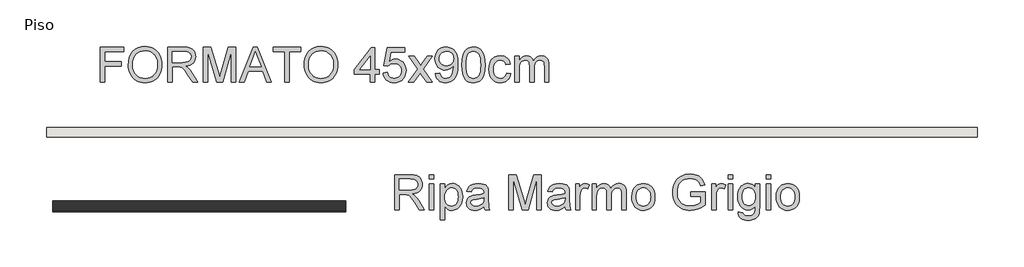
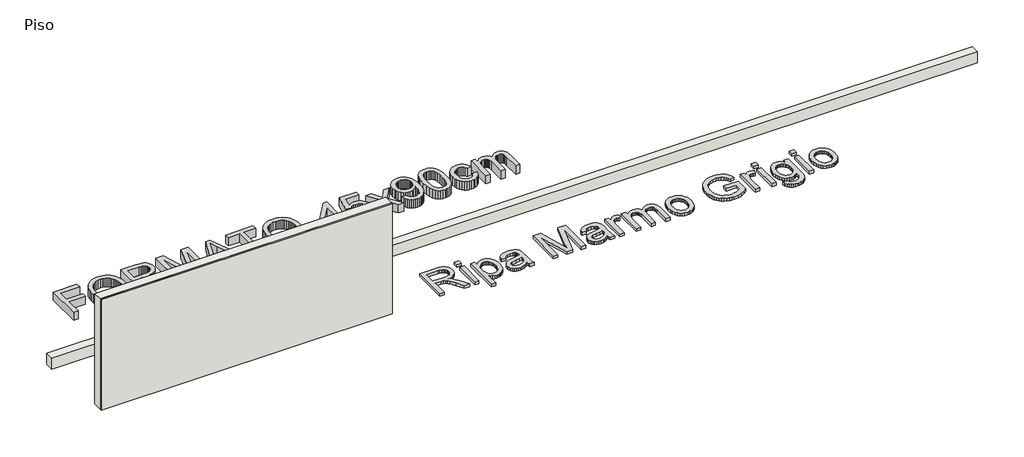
# One storey: 3 walls, 2 proxies.
"""IFC4 building model written with IfcOpenShell, lengths in millimetres."""

from ifc_helpers import new_model, si_unit, origin, origin_with_axes, place, context, project, spatial, polyline, outline, extrude, element, save

model = new_model("IFC4")

# Units and contexts
model_context = context("Model", 3, world=origin())
ifc_project = project(units=[si_unit("LENGTHUNIT", "METRE", prefix="MILLI")], contexts=[model_context])

# Site, building, storey
site = spatial("IfcSite", under=ifc_project)
building = spatial("IfcBuilding", under=site)
storey = spatial("IfcBuildingStorey", under=building, Name="Piso", Elevation=0.0)

# Proxies
placement = place(None, origin())
element("IfcBuildingElementProxy", 1, Name="600mm Arial", ObjectType="600mm Arial", at=placement, inside=storey, context=model_context, shape_type="SweptSolid", body=[
    extrude(outline(polyline([(92602.0859381, 2702.6380465), (92602.0859381, 3305.3759074), (93007.0504384, 3305.3759074), (93007.0504384, 3230.0336748), (92677.4281707, 3230.0336748), (92677.4281707, 3051.0958724), (92959.961543, 3051.0958724), (92959.961543, 2975.7536397), (92677.4281707, 2975.7536397), (92677.4281707, 2702.6380465), (92602.0859381, 2702.6380465)])), origin_with_axes(), (0.0, 0.0, 1.0), 150.0),
    extrude(outline(polyline([(93082.392671, 2996.0607259), (93087.4142602, 3066.7584483), (93102.4790279, 3129.3443727), (93127.5869741, 3183.8184992), (93143.9071391, 3208.0136381), (93162.7380987, 3230.1808276), (93205.8262774, 3267.1989534), (93254.7453857, 3293.6404718), (93309.4954237, 3309.5053828), (93370.0763912, 3314.7936865), (93410.6261841, 3312.310483), (93449.134232, 3304.8608726), (93485.6005348, 3292.4448553), (93520.0250925, 3275.062431), (93551.4422148, 3253.2378317), (93578.8862117, 3227.495289), (93602.357083, 3197.8348032), (93621.8548287, 3164.2563741), (93637.1771138, 3127.5233569), (93648.1216032, 3088.3991067), (93654.6882968, 3046.8836235), (93656.8771947, 3002.9769074), (93654.5733337, 2958.4907771), (93647.6617507, 2916.4142739), (93636.1424457, 2876.7473978), (93620.0154187, 2839.4901487), (93599.6623474, 2805.6266111), (93575.4649091, 2776.1408692), (93547.423104, 2751.032923), (93515.5369321, 2730.3027726), (93481.0617906, 2714.0791766), (93445.2530769, 2702.4908937), (93408.110791, 2695.537924), (93369.6349328, 2693.2202674), (93328.3769671, 2695.7816458), (93289.3630815, 2703.465781), (93252.5932761, 2716.272673), (93218.0675508, 2734.2023217), (93186.6872166, 2756.56035), (93159.3535844, 2782.6523805), (93136.0666541, 2812.4784132), (93116.8264257, 2846.0384482), (93101.761658, 2881.9851177), (93091.0011097, 2918.9710538), (93084.5447807, 2956.9962565), (93082.392671, 2996.0607259)]), holes=[polyline([(93157.7349036, 2995.3249619), (93161.5010955, 2945.375784), (93172.7996713, 2901.0368065), (93191.6306309, 2862.3080295), (93217.9939744, 2829.1894529), (93250.0410947, 2802.665161), (93285.9233848, 2783.7192383), (93325.6408447, 2772.3516846), (93369.1934744, 2768.5625001), (93413.4910652, 2772.3884728), (93453.6775746, 2783.8663911), (93489.7530028, 2802.9962548), (93521.7173496, 2829.7780641), (93547.8875551, 2863.5956165), (93566.5805589, 2903.8327097), (93577.7963613, 2950.4893437), (93581.5349621, 3003.5655186), (93579.9346754, 3038.0452586), (93575.1338153, 3070.2625243), (93567.1323819, 3100.2173158), (93555.9303752, 3127.9096329), (93541.6519553, 3152.9761924), (93524.4212823, 3175.0537106), (93504.2383563, 3194.1421877), (93481.1031774, 3210.2416235), (93455.7331153, 3223.0209243), (93428.84554, 3232.1489963), (93400.4404514, 3237.6258395), (93370.5178496, 3239.4514539), (93328.4781346, 3235.9335823), (93289.4734461, 3225.3799676), (93253.503784, 3207.7906097), (93220.5691484, 3183.1655086), (93193.0791663, 3150.318245), (93173.4434648, 3108.0623993), (93161.6620439, 3056.3979716), (93157.7349036, 2995.3249619)])]), origin_with_axes(), (0.0, 0.0, 1.0), 150.0),
    extrude(outline(polyline([(93760.4727645, 2702.6380465), (93760.4727645, 3305.3759074), (94020.1974531, 3305.3759074), (94090.0030617, 3301.3108114), (94140.7891711, 3289.1155232), (94160.3880844, 3279.4218327), (94177.9084644, 3266.6011451), (94193.3503112, 3250.6534606), (94206.7136247, 3231.5787792), (94217.4971656, 3210.4025718), (94225.1996949, 3188.1503097), (94229.8212125, 3164.8219926), (94231.3617183, 3140.4176208), (94228.809537, 3109.4603509), (94221.152993, 3081.0414668), (94208.3920863, 3055.1609684), (94190.5268169, 3031.8188558), (94167.3272585, 3011.76009), (94138.563485, 2995.7296321), (94104.2354964, 2983.727482), (94064.3432925, 2975.7536397), (94089.1753272, 2959.5300438), (94107.1647568, 2943.527177), (94138.0300562, 2906.9229184), (94168.233168, 2865.9776524), (94268.738529, 2702.6380465), (94181.1826142, 2702.6380465), (94102.7501728, 2827.5707721), (94046.0963456, 2910.2706446), (94025.0351013, 2934.3853094), (94006.2915137, 2949.3397125), (93970.4598074, 2963.6871103), (93926.7554263, 2966.3358607), (93835.8149971, 2966.3358607), (93835.8149971, 2702.6380465), (93760.4727645, 2702.6380465)]), holes=[polyline([(93835.8149971, 3041.6780933), (94004.4521037, 3041.6780933), (94052.8837684, 3044.3452377), (94090.4629142, 3052.3466711), (94118.7530396, 3066.2158224), (94139.3176431, 3086.4861203), (94151.8440251, 3111.0054553), (94156.0194857, 3137.6217176), (94154.0283244, 3156.8895371), (94148.0548405, 3174.3731289), (94138.099034, 3190.0724931), (94124.1609049, 3203.9876296), (94105.9185565, 3215.3827744), (94083.050092, 3223.5221635), (94055.5555114, 3228.405797), (94023.4348147, 3230.0336748), (93835.8149971, 3230.0336748), (93835.8149971, 3041.6780933)])]), origin_with_axes(), (0.0, 0.0, 1.0), 150.0),
    extrude(outline(polyline([(94363.2106254, 2702.6380465), (94363.2106254, 3305.3759074), (94492.8522405, 3305.3759074), (94616.1662853, 2880.5457794), (94641.0351082, 2791.8126422), (94667.9640702, 2887.9034193), (94789.2179758, 3305.3759074), (94918.8595909, 3305.3759074), (94918.8595909, 2702.6380465), (94843.5173583, 2702.6380465), (94843.5173583, 3230.0336748), (94692.0971291, 2702.6380465), (94589.9730872, 2702.6380465), (94438.552858, 3230.0336748), (94438.552858, 2702.6380465), (94363.2106254, 2702.6380465)])), origin_with_axes(), (0.0, 0.0, 1.0), 150.0),
    extrude(outline(polyline([(94980.5166133, 2702.6380465), (95221.1114382, 3305.3759074), (95285.2700581, 3305.3759074), (95525.864883, 2702.6380465), (95446.2552192, 2702.6380465), (95377.2405569, 2890.9936281), (95128.9937866, 2890.9936281), (95060.1262771, 2702.6380465), (94980.5166133, 2702.6380465)]), holes=[polyline([(95156.6585126, 2966.3358607), (95349.7229837, 2966.3358607), (95295.4236012, 3114.5187283), (95253.1907481, 3230.0336748), (95215.6667846, 3127.4681746), (95156.6585126, 2966.3358607)])]), origin_with_axes(), (0.0, 0.0, 1.0), 150.0),
    extrude(outline(polyline([(95757.0419287, 2702.6380465), (95757.0419287, 3230.0336748), (95559.2685681, 3230.0336748), (95559.2685681, 3305.3759074), (96030.1575219, 3305.3759074), (96030.1575219, 3230.0336748), (95832.3841613, 3230.0336748), (95832.3841613, 2702.6380465), (95757.0419287, 2702.6380465)])), origin_with_axes(), (0.0, 0.0, 1.0), 150.0),
    extrude(outline(polyline([(96086.6641964, 2996.0607259), (96091.6857856, 3066.7584483), (96106.7505533, 3129.3443727), (96131.8584995, 3183.8184992), (96148.1786645, 3208.0136381), (96167.0096242, 3230.1808276), (96210.0978028, 3267.1989534), (96259.0169111, 3293.6404718), (96313.7669491, 3309.5053828), (96374.3479166, 3314.7936865), (96414.8977096, 3312.310483), (96453.4057574, 3304.8608726), (96489.8720602, 3292.4448553), (96524.2966179, 3275.062431), (96555.7137403, 3253.2378317), (96583.1577371, 3227.495289), (96606.6286084, 3197.8348032), (96626.1263541, 3164.2563741), (96641.4486392, 3127.5233569), (96652.3931286, 3088.3991067), (96658.9598222, 3046.8836235), (96661.1487201, 3002.9769074), (96658.8448591, 2958.4907771), (96651.9332761, 2916.4142739), (96640.4139711, 2876.7473978), (96624.2869442, 2839.4901487), (96603.9338728, 2805.6266111), (96579.7364345, 2776.1408692), (96551.6946295, 2751.032923), (96519.8084575, 2730.3027726), (96485.3333161, 2714.0791766), (96449.5246024, 2702.4908937), (96412.3823164, 2695.537924), (96373.9064582, 2693.2202674), (96332.6484925, 2695.7816458), (96293.6346069, 2703.465781), (96256.8648015, 2716.272673), (96222.3390762, 2734.2023217), (96190.958742, 2756.56035), (96163.6251098, 2782.6523805), (96140.3381795, 2812.4784132), (96121.0979512, 2846.0384482), (96106.0331835, 2881.9851177), (96095.2726351, 2918.9710538), (96088.8163061, 2956.9962565), (96086.6641964, 2996.0607259)]), holes=[polyline([(96162.006429, 2995.3249619), (96165.7726209, 2945.375784), (96177.0711967, 2901.0368065), (96195.9021564, 2862.3080295), (96222.2654998, 2829.1894529), (96254.3126201, 2802.665161), (96290.1949102, 2783.7192383), (96329.9123701, 2772.3516846), (96373.4649998, 2768.5625001), (96417.7625906, 2772.3884728), (96457.9491, 2783.8663911), (96494.0245282, 2802.9962548), (96525.988875, 2829.7780641), (96552.1590805, 2863.5956165), (96570.8520844, 2903.8327097), (96582.0678867, 2950.4893437), (96585.8064875, 3003.5655186), (96584.2062008, 3038.0452586), (96579.4053407, 3070.2625243), (96571.4039074, 3100.2173158), (96560.2019006, 3127.9096329), (96545.9234807, 3152.9761924), (96528.6928077, 3175.0537106), (96508.5098818, 3194.1421877), (96485.3747028, 3210.2416235), (96460.0046407, 3223.0209243), (96433.1170654, 3232.1489963), (96404.7119768, 3237.6258395), (96374.789375, 3239.4514539), (96332.74966, 3235.9335823), (96293.7449715, 3225.3799676), (96257.7753094, 3207.7906097), (96224.8406738, 3183.1655086), (96197.3506917, 3150.318245), (96177.7149902, 3108.0623993), (96165.9335693, 3056.3979716), (96162.006429, 2995.3249619)])]), origin_with_axes(), (0.0, 0.0, 1.0), 150.0),
    extrude(outline(polyline([(97216.7976856, 2702.6380465), (97216.7976856, 2843.9047327), (96943.6820924, 2843.9047327), (96943.6820924, 2919.2469653), (97235.6332437, 3295.9581283), (97292.1399182, 3295.9581283), (97292.1399182, 2919.2469653), (97367.4821508, 2919.2469653), (97367.4821508, 2843.9047327), (97292.1399182, 2843.9047327), (97292.1399182, 2702.6380465), (97216.7976856, 2702.6380465)]), holes=[polyline([(97216.7976856, 2919.2469653), (97216.7976856, 3152.0426918), (97036.3883552, 2919.2469653), (97216.7976856, 2919.2469653)])]), origin_with_axes(), (0.0, 0.0, 1.0), 150.0),
    extrude(outline(polyline([(97433.4066044, 2862.7402908), (97508.748837, 2872.1580699), (97514.3774315, 2847.937639), (97522.5812, 2826.9269786), (97533.3601424, 2809.1260886), (97546.7142589, 2794.5349689), (97562.6159581, 2783.1720138), (97581.037649, 2775.0556173), (97601.9793316, 2770.1857794), (97625.4410058, 2768.5625001), (97654.1358015, 2770.8203758), (97679.4460827, 2777.594003), (97701.3718496, 2788.8833818), (97719.9131022, 2804.688512), (97734.6559732, 2824.2276445), (97745.1865953, 2846.7190299), (97751.5049685, 2872.1626684), (97753.611093, 2900.5585599), (97751.6383258, 2927.3955515), (97745.7200242, 2951.2526989), (97735.8561882, 2972.1300021), (97722.0468178, 2990.0274612), (97704.2459277, 3004.384056), (97682.4075328, 3014.6387666), (97656.531633, 3020.791593), (97626.6182282, 3022.8425351), (97590.069152, 3019.5683854), (97560.4730455, 3009.7459361), (97536.8366273, 2994.6995625), (97518.166616, 2975.7536397), (97442.8243834, 2985.1714188), (97508.748837, 3295.9581283), (97800.6999883, 3295.9581283), (97800.6999883, 3220.6158957), (97569.6700954, 3220.6158957), (97537.4436326, 3054.6275395), (97564.0323038, 3073.6838269), (97591.2647685, 3087.2954607), (97619.1410267, 3095.462441), (97647.6610783, 3098.1847677), (97684.3527088, 3094.8094504), (97718.0552981, 3084.6834985), (97748.7688462, 3067.806912), (97776.4933531, 3044.1796908), (97799.444591, 3015.2457719), (97815.8383324, 2982.4490921), (97825.6745773, 2945.7896512), (97828.9533256, 2905.2674495), (97826.0010726, 2866.2351698), (97817.1443135, 2829.9252169), (97802.3830485, 2796.3375907), (97781.7172774, 2765.4722913), (97750.4105196, 2733.8620309), (97713.8798375, 2711.2832734), (97672.125231, 2697.7360189), (97625.1467002, 2693.2202674), (97586.2661719, 2696.1219367), (97551.1472369, 2704.8269444), (97519.7898953, 2719.3352906), (97492.1941472, 2739.6469752), (97469.2337122, 2764.7503229), (97451.78231, 2793.633658), (97439.8399407, 2826.2969807), (97433.4066044, 2862.7402908)])), origin_with_axes(), (0.0, 0.0, 1.0), 150.0),
    extrude(outline(polyline([(97866.6244419, 2702.6380465), (98027.609603, 2925.1330772), (97876.0422209, 3145.2736631), (97966.6883446, 3145.2736631), (98039.8232852, 3039.3236485), (98073.9627344, 2989.2916972), (98103.5404468, 3030.200175), (98186.8289305, 3145.2736631), (98277.4750541, 3145.2736631), (98118.2557266, 2925.1330772), (98271.5889422, 2702.6380465), (98180.9428186, 2702.6380465), (98088.6780142, 2836.39994), (98071.7554424, 2860.8273045), (97957.2705655, 2702.6380465), (97866.6244419, 2702.6380465)])), origin_with_axes(), (0.0, 0.0, 1.0), 150.0),
    extrude(outline(polyline([(98328.0956166, 2853.3225117), (98403.4378492, 2862.7402908), (98416.3137191, 2819.9740089), (98425.7866804, 2803.7090262), (98437.2829928, 2790.856149), (98450.6738974, 2781.1026776), (98465.8306356, 2774.1359123), (98501.4416127, 2768.5625001), (98533.392164, 2772.1493495), (98562.4364475, 2782.9098979), (98586.5695064, 2799.6669228), (98603.7863838, 2821.2432018), (98616.8278005, 2849.6069036), (98628.4344775, 2886.7261969), (98636.6014578, 2929.326932), (98639.3237845, 2974.134959), (98638.8823261, 2988.8502388), (98612.7810986, 2956.991658), (98578.6232553, 2931.7549531), (98538.8736058, 2915.3106279), (98495.9969592, 2909.8291862), (98460.2066396, 2913.1769124), (98427.2949966, 2923.2200908), (98397.2620302, 2939.9587216), (98370.1077405, 2963.3928047), (98347.6071579, 2992.2991325), (98331.5353133, 3025.4544973), (98321.8922065, 3062.8588992), (98318.6778375, 3104.5123381), (98322.0485563, 3147.5545315), (98332.1607127, 3186.182141), (98349.0143066, 3220.3951665), (98372.609338, 3250.1936081), (98401.281141, 3274.3358641), (98433.3650495, 3291.5803326), (98468.8610636, 3301.9270137), (98507.7691831, 3305.3759074), (98536.4961684, 3303.4077387), (98563.9631578, 3297.5032327), (98590.1701515, 3287.6623894), (98615.1171493, 3273.8852086), (98637.9718182, 3256.4659962), (98657.9018253, 3235.6990575), (98674.9071705, 3211.5843928), (98688.9878539, 3184.1220018), (98700.0289123, 3151.7299921), (98707.9153825, 3112.8264711), (98712.6472647, 3067.4114388), (98714.2245588, 3015.4848952), (98712.6518632, 2960.950988), (98707.9337766, 2912.2756015), (98700.070299, 2869.4587358), (98689.0614303, 2832.5003908), (98674.9485572, 2800.4992558), (98657.7730666, 2772.5540197), (98637.5349583, 2748.6646826), (98614.2342325, 2728.8312446), (98588.3399385, 2713.2514421), (98560.3211261, 2702.1230117), (98530.1777951, 2695.4459535), (98497.9099456, 2693.2202674), (98464.0739991, 2695.8460252), (98433.4938082, 2703.7232984), (98406.169373, 2716.8520871), (98382.1006935, 2735.2323913), (98361.8947749, 2758.3675703), (98346.1586226, 2785.7609833), (98334.8922365, 2817.4126305), (98328.0956166, 2853.3225117)]), holes=[polyline([(98638.8823261, 3106.2781716), (98636.8497781, 3133.2807101), (98630.7521341, 3157.3401926), (98620.5893939, 3178.4566191), (98606.3615578, 3196.6299896), (98588.7676014, 3211.2441019), (98568.5065005, 3221.6827535), (98545.5782551, 3227.9459445), (98519.9828653, 3230.0336748), (98493.5689381, 3227.7849961), (98469.6566084, 3221.03896), (98448.2458762, 3209.7955666), (98429.3367417, 3194.0548157), (98413.8856979, 3174.7364124), (98402.849238, 3152.7600617), (98396.2273621, 3128.1257636), (98394.0200702, 3100.8335181), (98396.1078005, 3076.3555699), (98402.3709914, 3054.2780516), (98412.8096431, 3034.6009634), (98427.4237553, 3017.3243052), (98445.6063229, 3003.2574174), (98466.7503406, 2993.2096404), (98490.8558083, 2987.1809742), (98517.9227261, 2985.1714188), (98543.1640295, 2987.1809742), (98566.0600852, 2993.2096404), (98586.6108932, 3003.2574174), (98604.8164534, 3017.3243052), (98619.7202727, 3034.9412542), (98630.365858, 3055.639215), (98636.7532091, 3079.4181875), (98638.8823261, 3106.2781716)])]), origin_with_axes(), (0.0, 0.0, 1.0), 150.0),
    extrude(outline(polyline([(98780.1490123, 2999.1509346), (98785.6856363, 3095.6279879), (98792.6064164, 3136.5410643), (98802.2955084, 3172.5705072), (98814.7115257, 3204.0106222), (98829.8130816, 3231.1557149), (98847.6001761, 3254.0057853), (98868.0728091, 3272.5608335), (98891.2999586, 3286.9174283), (98917.3506024, 3297.1721389), (98946.2247405, 3303.3249653), (98977.9223729, 3305.3759074), (99024.3490807, 3300.5198651), (99065.9197461, 3285.9517381), (99100.6845947, 3262.2417435), (99126.6938518, 3229.9600984), (99146.3387503, 3189.3827143), (99162.0105233, 3140.7855028), (99172.274431, 3079.0732981), (99175.6957335, 2999.1509346), (99170.2142918, 2903.2257044), (99163.3624896, 2862.4505838), (99153.7699666, 2826.4671261), (99141.4505183, 2795.0132155), (99126.4179403, 2767.8267361), (99108.6722325, 2744.9076878), (99088.2133951, 2726.2560706), (99064.9586544, 2711.8029067), (99038.8252372, 2701.4792182), (99009.8131434, 2695.2850051), (98977.9223729, 2693.2202674), (98936.4252838, 2696.8071169), (98899.6370843, 2707.5676653), (98867.5577743, 2725.5019125), (98840.1873539, 2750.6098587), (98813.9205795, 2795.9972999), (98795.1585977, 2852.5499596), (98783.9014086, 2920.2678378), (98780.1490123, 2999.1509346)]), holes=[polyline([(98855.4912449, 2999.2980874), (98857.6985369, 2933.8012967), (98864.3204128, 2880.7849027), (98875.3568726, 2840.2489053), (98890.8079164, 2812.1933047), (98909.4963218, 2793.1048277), (98930.2448663, 2779.4702012), (98953.05355, 2771.2894254), (98977.9223729, 2768.5625001), (99002.7911958, 2771.2986224), (99025.5998795, 2779.5069894), (99046.348424, 2793.1876011), (99065.0368294, 2812.3404575), (99080.4878732, 2840.4420434), (99091.524333, 2880.9688437), (99098.1462089, 2933.9208584), (99100.3535009, 2999.2980874), (99098.2197853, 3063.0612342), (99091.8186386, 3115.1441277), (99081.1500607, 3155.5467678), (99066.2140517, 3184.2691546), (99047.8383461, 3204.2911322), (99026.8506783, 3218.5925448), (99003.2510483, 3227.1733923), (98977.0394561, 3230.0336748), (98952.2993919, 3227.5136831), (98929.8769843, 3219.9537081), (98909.7722333, 3207.3537498), (98891.9851388, 3189.7138081), (98876.0190602, 3158.4438385), (98864.6147184, 3116.2845619), (98857.7721133, 3063.2359782), (98855.4912449, 2999.2980874)])]), origin_with_axes(), (0.0, 0.0, 1.0), 150.0),
    extrude(outline(polyline([(99542.9891175, 2862.7402908), (99618.3313501, 2853.3225117), (99610.1367787, 2817.7713154), (99597.3252882, 2786.3128063), (99579.8968787, 2758.9469844), (99557.8515501, 2735.6738497), (99532.1182045, 2717.1004075), (99503.625744, 2703.833663), (99472.3741685, 2695.8736163), (99438.3634781, 2693.2202674), (99396.1076324, 2696.92208), (99358.2203854, 2708.0275178), (99324.7017371, 2726.5365806), (99295.5516875, 2752.4492687), (99271.9566561, 2785.2781382), (99255.1030622, 2824.5357456), (99244.9909058, 2870.2220909), (99241.620187, 2922.337174), (99247.3775403, 2989.3836677), (99254.5742318, 3019.5545898), (99264.6495999, 3047.4906288), (99277.6726226, 3072.6307646), (99293.7122776, 3094.4139773), (99312.7685649, 3112.8402667), (99334.8414846, 3127.9096329), (99358.9331568, 3139.6266745), (99384.0457015, 3147.9959899), (99410.1791187, 3153.0175791), (99437.3334085, 3154.6914422), (99470.7600863, 3152.3921797), (99500.9953877, 3145.4943923), (99528.0393129, 3133.99808), (99551.8918618, 3117.9032427), (99572.1483641, 3097.5777624), (99588.4041498, 3073.3895213), (99600.6592188, 3045.3385191), (99608.913571, 3013.4247561), (99533.5713384, 3004.006977), (99519.9045223, 3036.8772332), (99498.6225489, 3060.440075), (99470.9026405, 3074.6219259), (99437.9220197, 3079.3492096), (99412.3220313, 3077.022356), (99389.2328376, 3070.0417951), (99368.6544385, 3058.407527), (99350.586834, 3042.1195517), (99335.8761527, 3020.8007901), (99325.3685232, 2994.0741631), (99319.0639456, 2961.9396708), (99316.9624197, 2924.3973132), (99319.0179603, 2886.289337), (99325.1845822, 2853.7823642), (99335.4622855, 2826.8763948), (99349.85107, 2805.5714288), (99367.5599896, 2789.3800225), (99387.7980978, 2777.8147322), (99410.5653948, 2770.8755581), (99435.8618805, 2768.5625001), (99474.8757661, 2774.3382474), (99491.7477541, 2781.5579315), (99506.8631056, 2791.6654894), (99519.7987562, 2804.7712854), (99530.1316418, 2820.9856844), (99537.8617622, 2840.3086862), (99542.9891175, 2862.7402908)])), origin_with_axes(), (0.0, 0.0, 1.0), 150.0),
    extrude(outline(polyline([(99684.2558036, 2702.6380465), (99684.2558036, 3145.2736631), (99759.5980363, 3145.2736631), (99759.5980363, 3072.4330281), (99782.2595672, 3105.8918955), (99811.3958212, 3132.1034877), (99846.0135169, 3149.0444536), (99885.119373, 3154.6914422), (99927.0211323, 3148.934089), (99944.854212, 3141.7373974), (99960.6087584, 3131.6620293), (99985.6983105, 3104.0156974), (100002.1058475, 3067.1355273), (100029.5682384, 3105.4412401), (100060.8933903, 3132.8024635), (100096.0813031, 3149.2191975), (100135.1319769, 3154.6914422), (100165.293702, 3152.4151724), (100191.7674101, 3145.5863628), (100214.5531012, 3134.2050136), (100233.6507752, 3118.2711247), (100248.7477326, 3097.6007551), (100259.5312736, 3072.0099638), (100266.0013982, 3041.4987508), (100268.1581064, 3006.0671161), (100268.1581064, 2702.6380465), (100192.8158738, 2702.6380465), (100192.8158738, 2973.6935006), (100191.0684343, 3011.2726464), (100185.8261159, 3036.6013217), (100176.0036666, 3053.9469578), (100160.5158346, 3067.5769857), (100140.5950246, 3076.4061536), (100117.4736412, 3079.3492096), (100096.1226899, 3077.4638144), (100076.6571338, 3071.8076287), (100059.076973, 3062.3806526), (100043.3822073, 3049.182886), (100030.4741478, 3031.8280529), (100021.2541053, 3009.9298771), (100015.7220798, 2983.4883587), (100013.8780713, 2952.5034976), (100013.8780713, 2702.6380465), (99938.5358387, 2702.6380465), (99938.5358387, 2982.0812101), (99934.1764371, 3024.6819451), (99928.727185, 3041.4021818), (99921.0982321, 3055.0689979), (99910.9860758, 3065.6915905), (99898.0872133, 3073.2791567), (99882.4016448, 3077.8316964), (99863.9293701, 3079.3492096), (99834.9034807, 3075.3025076), (99808.1584596, 3063.1624018), (99786.0855399, 3043.2231977), (99771.0759545, 3015.7792008), (99762.4675158, 2977.7034143), (99759.5980363, 2925.8688412), (99759.5980363, 2702.6380465), (99684.2558036, 2702.6380465)])), origin_with_axes(), (0.0, 0.0, 1.0), 150.0),
])
element("IfcBuildingElementProxy", 2, Name="600mm Arial", ObjectType="600mm Arial", at=placement, inside=storey, context=model_context, shape_type="SweptSolid", body=[
    extrude(outline(polyline([(97633.0207493, 518.0346061), (97633.0207493, 1120.772467), (97892.7454379, 1120.772467), (97962.5510465, 1116.7073709), (98013.3371559, 1104.5120828), (98032.9360692, 1094.8183922), (98050.4564493, 1081.9977047), (98065.898296, 1066.0500202), (98079.2616095, 1046.9753388), (98090.0451505, 1025.7991314), (98097.7476797, 1003.5468692), (98102.3691973, 980.2185522), (98103.9097032, 955.8141804), (98101.3575218, 924.8569105), (98093.7009778, 896.4380263), (98080.9400711, 870.557528), (98063.0748017, 847.2154154), (98039.8752434, 827.1566496), (98011.1114699, 811.1261917), (97976.7834812, 799.1240416), (97936.8912773, 791.1501993), (97961.723312, 774.9266033), (97979.7127416, 758.9237365), (98010.578041, 722.319478), (98040.7811528, 681.374212), (98141.2865139, 518.0346061), (98053.730599, 518.0346061), (97975.2981576, 642.9673317), (97918.6443304, 725.6672042), (97897.5830862, 749.781869), (97878.8394985, 764.7362721), (97843.0077922, 779.0836699), (97799.3034111, 781.7324202), (97708.3629819, 781.7324202), (97708.3629819, 518.0346061), (97633.0207493, 518.0346061)]), holes=[polyline([(97708.3629819, 857.0746529), (97877.0000885, 857.0746529), (97925.4317532, 859.7417973), (97963.010899, 867.7432307), (97991.3010244, 881.6123819), (98011.865628, 901.8826799), (98024.3920099, 926.4020148), (98028.5674705, 953.0182772), (98026.5763092, 972.2860967), (98020.6028253, 989.7696885), (98010.6470189, 1005.4690527), (97996.7088898, 1019.3841891), (97978.4665413, 1030.7793339), (97955.5980768, 1038.9187231), (97928.1034962, 1043.8023566), (97895.9827995, 1045.4302344), (97708.3629819, 1045.4302344), (97708.3629819, 857.0746529)])]), origin_with_axes(), (0.0, 0.0, 1.0), 50.0),
    extrude(outline(polyline([(98226.3408312, 1045.4302344), (98226.3408312, 1120.772467), (98301.6830638, 1120.772467), (98301.6830638, 1045.4302344), (98226.3408312, 1045.4302344)])), origin_with_axes(), (0.0, 0.0, 1.0), 50.0),
    extrude(outline(polyline([(98226.3408312, 518.0346061), (98226.3408312, 960.6702227), (98301.6830638, 960.6702227), (98301.6830638, 518.0346061), (98226.3408312, 518.0346061)])), origin_with_axes(), (0.0, 0.0, 1.0), 50.0),
    extrude(outline(polyline([(98414.6964127, 348.5145827), (98414.6964127, 960.6702227), (98490.0386453, 960.6702227), (98490.0386453, 886.7995181), (98514.6131626, 923.2382297), (98542.1307358, 949.2658808), (98574.2100458, 964.8824715), (98612.4697733, 970.0880018), (98638.7457448, 968.2669859), (98663.4214296, 962.8039383), (98686.4968278, 953.6988589), (98707.9719392, 940.9517478), (98727.3777145, 924.8936987), (98744.245104, 905.8558054), (98758.5741077, 883.838068), (98770.3647256, 858.8404864), (98786.1468632, 803.3270934), (98791.4075757, 742.7369288), (98785.4662815, 678.3023973), (98778.0396637, 648.6373129), (98767.6423989, 620.6736828), (98754.4170411, 595.1426723), (98738.5061448, 572.775447), (98719.90971, 553.5720068), (98698.6277366, 537.5323518), (98675.7040897, 524.8818097), (98652.1826347, 515.8457082), (98628.0633714, 510.4240473), (98603.3462998, 508.616827), (98568.71021, 513.4544753), (98537.7897283, 527.96742), (98511.3206187, 549.8747928), (98490.0386453, 576.8957253), (98490.0386453, 348.5145827), (98414.6964127, 348.5145827)]), holes=[polyline([(98490.0386453, 735.8207472), (98492.0757918, 699.5107943), (98498.1872315, 668.2776129), (98508.3729642, 642.1212031), (98522.6329901, 621.0415647), (98539.7992837, 604.8179688), (98558.7038197, 593.2296859), (98579.3465981, 586.2767162), (98601.727619, 583.9590596), (98624.4305367, 586.3594897), (98645.4503942, 593.5607797), (98664.7871915, 605.5629298), (98682.4409288, 622.3659399), (98697.1516101, 644.2089334), (98707.6592395, 671.3310335), (98713.9638172, 703.7322402), (98716.0653431, 741.4125536), (98714.014401, 777.4098068), (98707.8615746, 808.5878059), (98697.606864, 834.9465508), (98683.2502692, 856.4860417), (98666.0425888, 873.2246724), (98647.2346218, 885.1808373), (98626.8263681, 892.3545362), (98604.8178278, 894.7457692), (98582.8782653, 892.2027849), (98562.2354868, 884.573832), (98542.8894924, 871.8589105), (98524.840282, 854.0580205), (98509.614566, 831.4102852), (98498.7390545, 804.1548278), (98492.2137476, 772.2916485), (98490.0386453, 735.8207472)])]), origin_with_axes(), (0.0, 0.0, 1.0), 50.0),
    extrude(outline(polyline([(99158.7009597, 574.5412806), (99122.7037065, 543.6759812), (99085.6395955, 523.4792596), (99046.6624981, 512.3324352), (99004.9262857, 508.616827), (98971.3800463, 510.8517101), (98941.9632823, 517.5563595), (98916.6759936, 528.7307751), (98895.5181804, 544.374957), (98878.8117393, 563.4956236), (98866.8785671, 585.0994938), (98859.7186637, 609.1865675), (98857.3320293, 635.7568446), (98860.9372728, 666.9900259), (98871.7530035, 695.3537278), (98888.436452, 719.6339395), (98909.644849, 738.6166504), (98934.5688542, 752.9640482), (98962.3991271, 763.3383205), (99027.5878166, 774.6690859), (99104.6223064, 786.5884626), (99158.2595013, 800.5679784), (99158.7009597, 817.3433974), (99153.5138236, 850.9678117), (99147.0299034, 863.4206173), (99137.9524152, 872.967155), (99122.2622481, 882.4952987), (99103.1507785, 889.3011156), (99054.6639315, 894.7457692), (99009.7823281, 891.1221315), (98978.4387821, 880.2512185), (98957.0648382, 860.1464675), (98942.092041, 828.8213156), (98866.7498084, 838.2390947), (98879.8280133, 879.4418782), (98899.3441531, 911.8154937), (98927.1192438, 936.573952), (98964.9743011, 954.9312636), (99011.2722502, 966.2988172), (99064.3760162, 970.0880018), (99115.3092784, 966.7402756), (99155.6843274, 956.6970971), (99186.1265625, 941.5955412), (99207.2613831, 923.0726828), (99221.2776871, 900.1720286), (99230.3643724, 871.9370855), (99234.0431923, 806.0126319), (99234.0431923, 712.2762995), (99237.8691651, 581.3838857), (99243.5345478, 549.0286642), (99252.8787505, 518.0346061), (99177.5365179, 518.0346061), (99165.4699884, 544.2278042), (99158.7009597, 574.5412806)]), holes=[polyline([(99158.7009597, 725.2257458), (99108.0803972, 712.6809697), (99037.1527485, 702.1227565), (98972.331941, 689.9090742), (98955.4645515, 681.558153), (98942.9749578, 670.0434465), (98935.2494359, 656.2478717), (98932.6742619, 641.0543453), (98938.2844623, 618.6503318), (98955.1150636, 600.2930202), (98982.7981837, 588.0425498), (99020.9659407, 583.9590596), (99061.4329602, 588.4656141), (99097.1910901, 601.9852774), (99126.1801914, 621.9060874), (99146.3401247, 645.616082), (99155.2796572, 670.0434465), (99158.2595013, 703.8885901), (99158.7009597, 725.2257458)])]), origin_with_axes(), (0.0, 0.0, 1.0), 50.0),
    extrude(outline(polyline([(99582.5010182, 518.0346061), (99582.5010182, 1120.772467), (99712.1426333, 1120.772467), (99835.4566781, 695.942339), (99860.3255009, 607.2092017), (99887.254463, 703.2999789), (100008.5083686, 1120.772467), (100138.1499837, 1120.772467), (100138.1499837, 518.0346061), (100062.8077511, 518.0346061), (100062.8077511, 1045.4302344), (99911.3875219, 518.0346061), (99809.26348, 518.0346061), (99657.8432508, 1045.4302344), (99657.8432508, 518.0346061), (99582.5010182, 518.0346061)])), origin_with_axes(), (0.0, 0.0, 1.0), 50.0),
    extrude(outline(polyline([(100543.114484, 574.5412806), (100507.1172307, 543.6759812), (100470.0531197, 523.4792596), (100431.0760223, 512.3324352), (100389.33981, 508.616827), (100355.7935706, 510.8517101), (100326.3768065, 517.5563595), (100301.0895179, 528.7307751), (100279.9317046, 544.374957), (100263.2252635, 563.4956236), (100251.2920913, 585.0994938), (100244.132188, 609.1865675), (100241.7455535, 635.7568446), (100245.3507971, 666.9900259), (100256.1665277, 695.3537278), (100272.8499762, 719.6339395), (100294.0583732, 738.6166504), (100318.9823784, 752.9640482), (100346.8126513, 763.3383205), (100412.0013409, 774.6690859), (100489.0358307, 786.5884626), (100542.6730256, 800.5679784), (100543.114484, 817.3433974), (100537.9273478, 850.9678117), (100531.4434277, 863.4206173), (100522.3659394, 872.967155), (100506.6757724, 882.4952987), (100487.5643027, 889.3011156), (100439.0774557, 894.7457692), (100394.1958523, 891.1221315), (100362.8523063, 880.2512185), (100341.4783624, 860.1464675), (100326.5055652, 828.8213156), (100251.1633326, 838.2390947), (100264.2415375, 879.4418782), (100283.7576774, 911.8154937), (100311.532768, 936.573952), (100349.3878253, 954.9312636), (100395.6857744, 966.2988172), (100448.7895404, 970.0880018), (100499.7228026, 966.7402756), (100540.0978516, 956.6970971), (100570.5400867, 941.5955412), (100591.6749073, 923.0726828), (100605.6912114, 900.1720286), (100614.7778966, 871.9370855), (100618.4567166, 806.0126319), (100618.4567166, 712.2762995), (100622.2826893, 581.3838857), (100627.9480721, 549.0286642), (100637.2922747, 518.0346061), (100561.9500421, 518.0346061), (100549.8835127, 544.2278042), (100543.114484, 574.5412806)]), holes=[polyline([(100543.114484, 725.2257458), (100492.4939214, 712.6809697), (100421.5662728, 702.1227565), (100356.7454652, 689.9090742), (100339.8780757, 681.558153), (100327.388482, 670.0434465), (100319.6629601, 656.2478717), (100317.0877861, 641.0543453), (100322.6979866, 618.6503318), (100339.5285878, 600.2930202), (100367.211708, 588.0425498), (100405.379465, 583.9590596), (100445.8464845, 588.4656141), (100481.6046144, 601.9852774), (100510.5937156, 621.9060874), (100530.7536489, 645.616082), (100539.6931814, 670.0434465), (100542.6730256, 703.8885901), (100543.114484, 725.2257458)])]), origin_with_axes(), (0.0, 0.0, 1.0), 50.0),
    extrude(outline(polyline([(100722.0522864, 518.0346061), (100722.0522864, 960.6702227), (100787.97674, 960.6702227), (100787.97674, 895.1872276), (100812.330528, 933.1526495), (100834.7713298, 955.5198748), (100857.2857079, 966.44597), (100881.8602251, 970.0880018), (100919.3841886, 964.2754662), (100957.4967633, 946.8378597), (100932.3336349, 879.2947254), (100905.8461312, 890.8830082), (100879.3586276, 894.7457692), (100856.8626436, 891.030161), (100836.7578925, 879.8833366), (100820.5159024, 862.1514244), (100809.6082013, 838.6805531), (100800.4479396, 796.5948528), (100797.394519, 750.6831798), (100797.394519, 518.0346061), (100722.0522864, 518.0346061)])), origin_with_axes(), (0.0, 0.0, 1.0), 50.0),
    extrude(outline(polyline([(101004.5856587, 518.0346061), (101004.5856587, 960.6702227), (101079.9278913, 960.6702227), (101079.9278913, 887.8295876), (101102.5894222, 921.2884551), (101131.7256763, 947.5000473), (101166.343372, 964.4410131), (101205.4492281, 970.0880018), (101247.3509873, 964.3306485), (101265.1840671, 957.133957), (101280.9386135, 947.0585889), (101306.0281656, 919.4122569), (101322.4357026, 882.5320869), (101349.8980935, 920.8377997), (101381.2232454, 948.1990231), (101416.4111582, 964.6157571), (101455.461832, 970.0880018), (101485.6235571, 967.8117319), (101512.0972652, 960.9829224), (101534.8829562, 949.6015732), (101553.9806303, 933.6676842), (101569.0775877, 912.9973146), (101579.8611287, 887.4065234), (101586.3312533, 856.8953104), (101588.4879615, 821.4636757), (101588.4879615, 518.0346061), (101513.1457289, 518.0346061), (101513.1457289, 789.0900601), (101511.3982894, 826.6692059), (101506.1559709, 851.9978813), (101496.3335217, 869.3435174), (101480.8456897, 882.9735453), (101460.9248796, 891.8027132), (101437.8034962, 894.7457692), (101416.452545, 892.8603739), (101396.9869889, 887.2041883), (101379.406828, 877.7772121), (101363.7120624, 864.5794456), (101350.8040029, 847.2246124), (101341.5839604, 825.3264367), (101336.0519349, 798.8849183), (101334.2079264, 767.9000572), (101334.2079264, 518.0346061), (101258.8656938, 518.0346061), (101258.8656938, 797.4777696), (101254.5062921, 840.0785047), (101249.0570401, 856.7987414), (101241.4280872, 870.4655575), (101231.3159309, 881.0881501), (101218.4170684, 888.6757162), (101202.7314999, 893.2282559), (101184.2592252, 894.7457692), (101155.2333358, 890.6990672), (101128.4883147, 878.5589614), (101106.415395, 858.6197572), (101091.4058096, 831.1757604), (101082.7973709, 793.0999739), (101079.9278913, 741.2654008), (101079.9278913, 518.0346061), (101004.5856587, 518.0346061)])), origin_with_axes(), (0.0, 0.0, 1.0), 50.0),
    extrude(outline(polyline([(101682.6657522, 739.3524144), (101686.7400453, 796.6776263), (101698.9629246, 846.0749812), (101719.3343901, 887.5444791), (101747.8544418, 921.08612), (101776.5676315, 942.5244433), (101808.2606654, 957.8375313), (101842.9335434, 967.0253842), (101880.5862656, 970.0880018), (101922.1523326, 966.358598), (101959.7360769, 955.1703869), (101993.3374986, 936.5233682), (102022.9565978, 910.4175422), (102047.1310434, 877.7358254), (102064.3985045, 839.3611348), (102074.7589812, 795.2934703), (102078.2124734, 745.5328319), (102076.6857632, 705.2037682), (102072.1056323, 669.4180471), (102064.4720809, 638.1756687), (102053.785109, 611.4766329), (102040.1780737, 588.4150303), (102023.7843323, 568.0849515), (102004.6038847, 550.4863966), (101982.6367311, 535.6193655), (101958.738197, 523.8057549), (101933.763608, 515.3674616), (101907.7129643, 510.3044857), (101880.5862656, 508.616827), (101838.4131934, 512.3324352), (101800.4799612, 523.4792596), (101766.786569, 542.0573004), (101737.3330167, 568.0665574), (101713.4160885, 601.0655724), (101696.3325684, 640.6128869), (101686.0824563, 686.7085009), (101682.6657522, 739.3524144)]), holes=[polyline([(101758.0079848, 739.4995672), (101760.1876857, 702.9550895), (101766.7267881, 671.3126394), (101777.6252922, 644.5722169), (101792.883198, 622.7338219), (101811.4428446, 605.7698634), (101832.2465715, 593.6527502), (101855.2943785, 586.3824823), (101880.5862656, 583.9590596), (101905.7493941, 586.3962778), (101928.7052306, 593.7079325), (101949.4537751, 605.8940236), (101967.9950277, 622.9545511), (101983.2529334, 645.0090767), (101994.1514376, 672.1771621), (102000.69054, 704.4588072), (102002.8702408, 741.854012), (102000.6767444, 777.2396614), (101994.0962553, 808.054377), (101983.1287733, 834.2981588), (101967.7742985, 855.9710069), (101949.1640681, 872.9349654), (101928.4293191, 885.0520786), (101905.5700516, 892.3223465), (101880.5862656, 894.7457692), (101855.2943785, 892.3315436), (101832.2465715, 885.0888668), (101811.4428446, 873.0177388), (101792.883198, 856.1181597), (101777.6252922, 834.3441441), (101766.7267881, 807.6497068), (101760.1876857, 776.0348478), (101758.0079848, 739.4995672)])]), origin_with_axes(), (0.0, 0.0, 1.0), 50.0),
    extrude(outline(polyline([(102690.3681134, 753.479083), (102690.3681134, 828.8213156), (102935.2303694, 828.8213156), (102935.2303694, 603.5303818), (102875.7254567, 562.1436573), (102814.3443458, 532.4555803), (102751.2341895, 514.5765153), (102686.5421407, 508.616827), (102643.2654225, 510.9850674), (102602.0212523, 518.0897884), (102562.8096301, 529.9309901), (102525.630556, 546.5086725), (102491.6842449, 567.5745153), (102462.1709118, 592.880198), (102437.0905568, 622.4257208), (102416.4431798, 656.2110835), (102400.3161529, 693.1556329), (102388.7968479, 732.1787155), (102381.8852649, 773.2803314), (102379.5814039, 816.4604806), (102381.8760678, 859.6452283), (102388.7600597, 901.349251), (102400.2333794, 941.5725486), (102416.296027, 980.3151212), (102436.662894, 1015.8755146), (102461.0488717, 1046.5522745), (102489.4539603, 1072.3454009), (102521.8781596, 1093.2548938), (102557.6178955, 1109.4141104), (102595.9695935, 1120.956408), (102636.9332536, 1127.8817866), (102680.508876, 1130.1902461), (102742.5705685, 1124.837563), (102798.3782672, 1108.779514), (102823.2976739, 1097.0256842), (102845.3751921, 1083.1749271), (102864.6108219, 1067.2272426), (102881.0045633, 1049.1826307), (102907.3633083, 1005.16555), (102926.5483543, 949.48661), (102857.0922336, 929.9152879), (102841.5860075, 969.6281493), (102822.7320553, 999.5921378), (102797.789656, 1022.1800923), (102764.0180889, 1039.7648517), (102723.7534045, 1051.077223), (102679.3316536, 1054.8480135), (102627.3315336, 1050.7829174), (102582.8729944, 1038.5876293), (102546.1215831, 1019.7888593), (102517.2428465, 995.9133178), (102495.0779563, 968.1934095), (102478.4680842, 937.861539), (102460.8097484, 880.9869825), (102454.9236365, 819.5506893), (102456.6940686, 781.9301568), (102462.0053649, 747.5010006), (102470.8575254, 716.2632207), (102483.2505501, 688.2168171), (102499.0234907, 663.4675558), (102518.0153987, 642.1212031), (102540.2262741, 624.1777588), (102565.6561171, 609.6372229), (102593.1139095, 598.4030265), (102621.4086334, 590.3786004), (102650.5402889, 585.5639448), (102680.508876, 583.9590596), (102732.692937, 588.7967079), (102783.589411, 603.3096526), (102827.7904327, 623.304039), (102859.8881368, 644.5860124), (102859.8881368, 753.479083), (102690.3681134, 753.479083)])), origin_with_axes(), (0.0, 0.0, 1.0), 50.0),
    extrude(outline(polyline([(103048.2437183, 518.0346061), (103048.2437183, 960.6702227), (103114.1681719, 960.6702227), (103114.1681719, 895.1872276), (103138.5219599, 933.1526495), (103160.9627617, 955.5198748), (103183.4771398, 966.44597), (103208.051657, 970.0880018), (103245.5756205, 964.2754662), (103283.6881952, 946.8378597), (103258.5250668, 879.2947254), (103232.0375631, 890.8830082), (103205.5500595, 894.7457692), (103183.0540755, 891.030161), (103162.9493244, 879.8833366), (103146.7073343, 862.1514244), (103135.7996332, 838.6805531), (103126.6393715, 796.5948528), (103123.5859509, 750.6831798), (103123.5859509, 518.0346061), (103048.2437183, 518.0346061)])), origin_with_axes(), (0.0, 0.0, 1.0), 50.0),
    extrude(outline(polyline([(103330.7770906, 518.0346061), (103330.7770906, 960.6702227), (103406.1193232, 960.6702227), (103406.1193232, 518.0346061), (103330.7770906, 518.0346061)])), origin_with_axes(), (0.0, 0.0, 1.0), 50.0),
    extrude(outline(polyline([(103330.7770906, 1045.4302344), (103330.7770906, 1120.772467), (103406.1193232, 1120.772467), (103406.1193232, 1045.4302344), (103330.7770906, 1045.4302344)])), origin_with_axes(), (0.0, 0.0, 1.0), 50.0),
    extrude(outline(polyline([(103500.297114, 480.3634898), (103575.6393466, 470.9457107), (103583.9534797, 447.401263), (103600.0667111, 431.2144552), (103631.7413509, 418.632891), (103673.2016517, 414.4390363), (103717.4210676, 419.184714), (103735.2817384, 425.1168112), (103750.3097179, 433.4217472), (103773.1184016, 456.2304309), (103787.0979174, 486.6910601), (103791.1814076, 519.1014639), (103792.2482654, 574.5412806), (103767.1771074, 549.8196105), (103739.1996817, 532.1612747), (103708.3159882, 521.5662732), (103674.5260269, 518.0346061), (103633.2174774, 522.1456874), (103596.8477436, 534.4789313), (103565.4168257, 555.0343378), (103538.9247235, 583.8119068), (103517.904866, 618.3376321), (103502.8906821, 656.1375071), (103493.8821717, 697.2115318), (103490.8793349, 741.5597064), (103496.2688062, 802.3889943), (103512.4372198, 858.3254516), (103524.4209758, 883.5483609), (103538.8143589, 905.7270467), (103555.617369, 924.861509), (103574.8300062, 940.9517478), (103596.1441693, 953.6988589), (103619.2517571, 962.8039383), (103644.1527697, 968.2669859), (103670.847207, 970.0880018), (103706.0811051, 965.9677234), (103738.0592475, 953.6068884), (103766.7816343, 933.0054967), (103792.2482654, 904.1635482), (103792.2482654, 960.6702227), (103867.590498, 960.6702227), (103867.590498, 578.5144061), (103862.4401501, 490.2779096), (103856.0022151, 457.4582371), (103846.9891063, 432.1709484), (103835.1846927, 411.7764903), (103820.3728439, 393.6353094), (103802.5535598, 377.7474058), (103781.7268403, 364.1127793), (103758.1042177, 353.16829), (103731.8972241, 345.3507976), (103703.1058594, 340.6603021), (103671.7301238, 339.0968036), (103634.8177641, 341.2994971), (103601.6302096, 347.9075774), (103572.1674603, 358.9210447), (103546.4295162, 374.3398988), (103525.6395849, 394.1825339), (103511.0208742, 418.4673441), (103502.5733839, 447.1943294), (103500.297114, 480.3634898)]), holes=[polyline([(103566.2215675, 746.7100543), (103568.2311229, 709.4574038), (103574.2597891, 677.6034215), (103584.3075661, 651.1481075), (103598.3744539, 630.0914618), (103615.4763682, 614.0288142), (103634.6292245, 602.5554945), (103655.833023, 595.6715027), (103679.0877637, 593.3768387), (103702.112578, 595.6577071), (103723.215209, 602.5003122), (103742.3956565, 613.904654), (103759.6539206, 629.8707326), (103773.9139464, 650.7204447), (103784.0996792, 676.775687), (103790.2111188, 708.0364596), (103792.2482654, 744.5027623), (103790.151338, 779.4469533), (103783.8605559, 809.8202106), (103773.375919, 835.622534), (103758.6974274, 856.8539237), (103741.0666828, 873.4316061), (103721.7252869, 885.2728078), (103700.6732397, 892.3775288), (103677.9105413, 894.7457692), (103655.5295204, 892.414317), (103634.8867419, 885.4199606), (103615.9822059, 873.7626999), (103598.8159123, 857.4425348), (103584.5558865, 836.5330419), (103574.3701537, 811.1077976), (103568.2587141, 781.1668017), (103566.2215675, 746.7100543)])]), origin_with_axes(), (0.0, 0.0, 1.0), 50.0),
    extrude(outline(polyline([(103980.6038469, 1045.4302344), (103980.6038469, 1120.772467), (104055.9460795, 1120.772467), (104055.9460795, 1045.4302344), (103980.6038469, 1045.4302344)])), origin_with_axes(), (0.0, 0.0, 1.0), 50.0),
    extrude(outline(polyline([(103980.6038469, 518.0346061), (103980.6038469, 960.6702227), (104055.9460795, 960.6702227), (104055.9460795, 518.0346061), (103980.6038469, 518.0346061)])), origin_with_axes(), (0.0, 0.0, 1.0), 50.0),
    extrude(outline(polyline([(104150.1238703, 739.3524144), (104154.1981634, 796.6776263), (104166.4210427, 846.0749812), (104186.7925082, 887.5444791), (104215.3125598, 921.08612), (104244.0257496, 942.5244433), (104275.7187834, 957.8375313), (104310.3916615, 967.0253842), (104348.0443837, 970.0880018), (104389.6104506, 966.358598), (104427.194195, 955.1703869), (104460.7956167, 936.5233682), (104490.4147158, 910.4175422), (104514.5891614, 877.7358254), (104531.8566226, 839.3611348), (104542.2170993, 795.2934703), (104545.6705915, 745.5328319), (104544.1438812, 705.2037682), (104539.5637504, 669.4180471), (104531.930199, 638.1756687), (104521.243227, 611.4766329), (104507.6361917, 588.4150303), (104491.2424503, 568.0849515), (104472.0620028, 550.4863966), (104450.0948492, 535.6193655), (104426.196315, 523.8057549), (104401.2217261, 515.3674616), (104375.1710823, 510.3044857), (104348.0443837, 508.616827), (104305.8713115, 512.3324352), (104267.9380792, 523.4792596), (104234.244687, 542.0573004), (104204.7911348, 568.0665574), (104180.8742066, 601.0655724), (104163.7906864, 640.6128869), (104153.5405743, 686.7085009), (104150.1238703, 739.3524144)]), holes=[polyline([(104225.4661029, 739.4995672), (104227.6458037, 702.9550895), (104234.1849062, 671.3126394), (104245.0834103, 644.5722169), (104260.341316, 622.7338219), (104278.9009627, 605.7698634), (104299.7046895, 593.6527502), (104322.7524965, 586.3824823), (104348.0443837, 583.9590596), (104373.2075122, 586.3962778), (104396.1633487, 593.7079325), (104416.9118932, 605.8940236), (104435.4531457, 622.9545511), (104450.7110515, 645.0090767), (104461.6095556, 672.1771621), (104468.1486581, 704.4588072), (104470.3283589, 741.854012), (104468.1348625, 777.2396614), (104461.5543733, 808.054377), (104450.5868913, 834.2981588), (104435.2324165, 855.9710069), (104416.6221861, 872.9349654), (104395.8874372, 885.0520786), (104373.0281697, 892.3223465), (104348.0443837, 894.7457692), (104322.7524965, 892.3315436), (104299.7046895, 885.0888668), (104278.9009627, 873.0177388), (104260.341316, 856.1181597), (104245.0834103, 834.3441441), (104234.1849062, 807.6497068), (104227.6458037, 776.0348478), (104225.4661029, 739.4995672)])]), origin_with_axes(), (0.0, 0.0, 1.0), 50.0),
])

# Walls
element("IfcWall", 3, ObjectType="5cm - Porcelanato Ripa Marmo Grigio  - Acetinado 45X90", at=placement, inside=storey, context=model_context, shape_type="SweptSolid", body=[
    extrude(outline(polyline([(96793.5840021, 484.0296351), (91793.5840021, 484.0296351), (91793.5840021, 514.0296351), (96793.5840021, 514.0296351), (96793.5840021, 484.0296351)])), origin_with_axes(), (0.0, 0.0, 1.0), 2000.0),
])
element("IfcWall", 4, ObjectType="CO01 - Bloco de Concreto 14cm / Pintura Branca Simples", at=placement, inside=storey, context=model_context, shape_type="SweptSolid", body=[
    extrude(outline(polyline([(107586.699165, 1765.7486968), (91686.699165, 1765.7486968), (91686.699165, 1924.5486968), (107586.699165, 1924.5486968), (107586.699165, 1765.7486968)])), origin_with_axes(), (0.0, 0.0, 1.0), 200.0),
])
element("IfcWall", 5, ObjectType="CO01 - Bloco de Concreto 14cm / Pintura Branca Simples", at=placement, inside=storey, context=model_context, shape_type="SweptSolid", body=[
    extrude(outline(polyline([(96793.5840021, 514.0296351), (91793.5840021, 514.0296351), (91793.5840021, 672.8296351), (96793.5840021, 672.8296351), (96793.5840021, 514.0296351)])), origin_with_axes(), (0.0, 0.0, 1.0), 2000.0),
])

save(model, "model.ifc")
